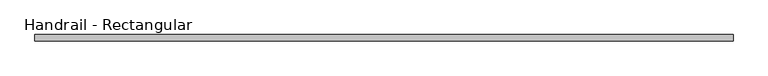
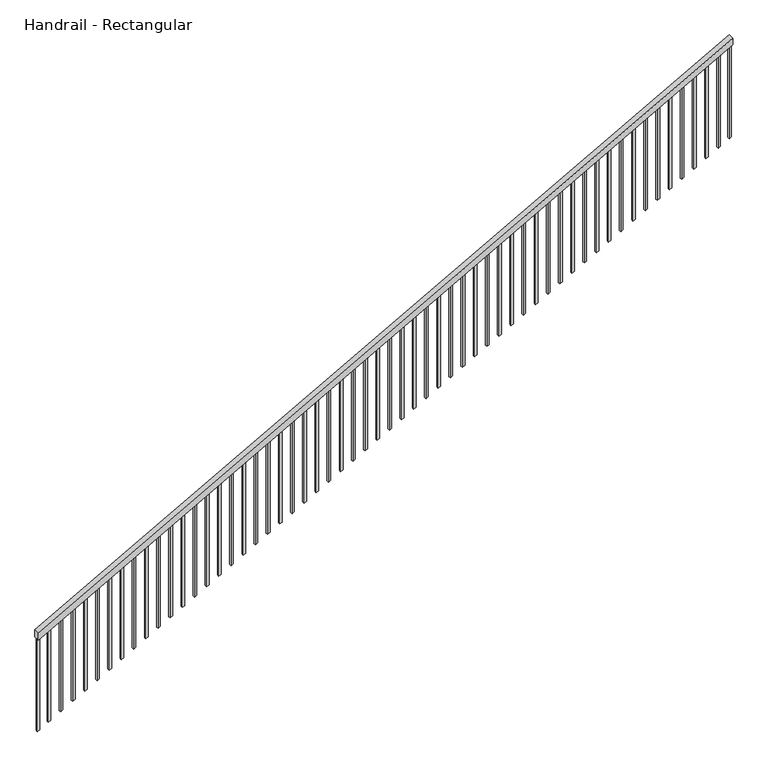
"""IFC4 building model written with IfcOpenShell, lengths in millimetres: railing geometry, Handrail - Rectangular."""

from ifc_helpers import new_model, si_unit, frame, origin, place, context, project, spatial, polyline, outline, extrude, source, transform, mapped, element, save


def handrail_rectangular_b14ff9f8(model_context):
    return source(origin(), model_context, "Body", "SweptSolid", [
        extrude(outline(polyline([(914.4, 87453.7114633), (856.2868876, 87453.7114633), (4073.620221, 93244.9114633), (4131.7333333, 93244.9114633), (914.4, 87453.7114633)])), frame((0.0, 6297.4984596, 0.0), z_axis=(0.0, 1.0, 0.0), x_axis=(0.0, 0.0, 1.0)), (0.0, 0.0, 1.0), 50.8),
        extrude(outline(polyline([(4011.8841099, 93133.7864633), (3193.8622837, 93133.7864633), (3204.445617, 93152.8364633), (4022.4674432, 93152.8364633), (4011.8841099, 93133.7864633)])), frame((0.0, 6313.3734596, 0.0), z_axis=(0.0, 1.0, 0.0), x_axis=(0.0, 0.0, 1.0)), (0.0, 0.0, 1.0), 19.05),
        extrude(outline(polyline([(3955.4396654, 93032.1864633), (3137.4178392, 93032.1864633), (3148.0011726, 93051.2364633), (3966.0229988, 93051.2364633), (3955.4396654, 93032.1864633)])), frame((0.0, 6313.3734596, 0.0), z_axis=(0.0, 1.0, 0.0), x_axis=(0.0, 0.0, 1.0)), (0.0, 0.0, 1.0), 19.05),
        extrude(outline(polyline([(3898.995221, 92930.5864633), (3080.9733948, 92930.5864633), (3091.5567281, 92949.6364633), (3909.5785543, 92949.6364633), (3898.995221, 92930.5864633)])), frame((0.0, 6313.3734596, 0.0), z_axis=(0.0, 1.0, 0.0), x_axis=(0.0, 0.0, 1.0)), (0.0, 0.0, 1.0), 19.05),
        extrude(outline(polyline([(3842.5507765, 92828.9864633), (3024.5289503, 92828.9864633), (3035.1122837, 92848.0364633), (3853.1341099, 92848.0364633), (3842.5507765, 92828.9864633)])), frame((0.0, 6313.3734596, 0.0), z_axis=(0.0, 1.0, 0.0), x_axis=(0.0, 0.0, 1.0)), (0.0, 0.0, 1.0), 19.05),
        extrude(outline(polyline([(3786.1063321, 92727.3864633), (2968.0845059, 92727.3864633), (2978.6678392, 92746.4364633), (3796.6896654, 92746.4364633), (3786.1063321, 92727.3864633)])), frame((0.0, 6313.3734596, 0.0), z_axis=(0.0, 1.0, 0.0), x_axis=(0.0, 0.0, 1.0)), (0.0, 0.0, 1.0), 19.05),
        extrude(outline(polyline([(3729.6618876, 92625.7864633), (2911.6400614, 92625.7864633), (2922.2233948, 92644.8364633), (3740.245221, 92644.8364633), (3729.6618876, 92625.7864633)])), frame((0.0, 6313.3734596, 0.0), z_axis=(0.0, 1.0, 0.0), x_axis=(0.0, 0.0, 1.0)), (0.0, 0.0, 1.0), 19.05),
        extrude(outline(polyline([(3673.2174432, 92524.1864633), (2855.195617, 92524.1864633), (2865.7789503, 92543.2364633), (3683.8007765, 92543.2364633), (3673.2174432, 92524.1864633)])), frame((0.0, 6313.3734596, 0.0), z_axis=(0.0, 1.0, 0.0), x_axis=(0.0, 0.0, 1.0)), (0.0, 0.0, 1.0), 19.05),
        extrude(outline(polyline([(3616.7729988, 92422.5864633), (2798.7511726, 92422.5864633), (2809.3345059, 92441.6364633), (3627.3563321, 92441.6364633), (3616.7729988, 92422.5864633)])), frame((0.0, 6313.3734596, 0.0), z_axis=(0.0, 1.0, 0.0), x_axis=(0.0, 0.0, 1.0)), (0.0, 0.0, 1.0), 19.05),
        extrude(outline(polyline([(3560.3285543, 92320.9864633), (2742.3067281, 92320.9864633), (2752.8900614, 92340.0364633), (3570.9118876, 92340.0364633), (3560.3285543, 92320.9864633)])), frame((0.0, 6313.3734596, 0.0), z_axis=(0.0, 1.0, 0.0), x_axis=(0.0, 0.0, 1.0)), (0.0, 0.0, 1.0), 19.05),
        extrude(outline(polyline([(3503.8841099, 92219.3864633), (2685.8622837, 92219.3864633), (2696.445617, 92238.4364633), (3514.4674432, 92238.4364633), (3503.8841099, 92219.3864633)])), frame((0.0, 6313.3734596, 0.0), z_axis=(0.0, 1.0, 0.0), x_axis=(0.0, 0.0, 1.0)), (0.0, 0.0, 1.0), 19.05),
        extrude(outline(polyline([(3447.4396654, 92117.7864633), (2629.4178392, 92117.7864633), (2640.0011726, 92136.8364633), (3458.0229988, 92136.8364633), (3447.4396654, 92117.7864633)])), frame((0.0, 6313.3734596, 0.0), z_axis=(0.0, 1.0, 0.0), x_axis=(0.0, 0.0, 1.0)), (0.0, 0.0, 1.0), 19.05),
        extrude(outline(polyline([(3390.995221, 92016.1864633), (2572.9733948, 92016.1864633), (2583.5567281, 92035.2364633), (3401.5785543, 92035.2364633), (3390.995221, 92016.1864633)])), frame((0.0, 6313.3734596, 0.0), z_axis=(0.0, 1.0, 0.0), x_axis=(0.0, 0.0, 1.0)), (0.0, 0.0, 1.0), 19.05),
        extrude(outline(polyline([(3334.5507765, 91914.5864633), (2516.5289503, 91914.5864633), (2527.1122837, 91933.6364633), (3345.1341099, 91933.6364633), (3334.5507765, 91914.5864633)])), frame((0.0, 6313.3734596, 0.0), z_axis=(0.0, 1.0, 0.0), x_axis=(0.0, 0.0, 1.0)), (0.0, 0.0, 1.0), 19.05),
        extrude(outline(polyline([(3278.1063321, 91812.9864633), (2460.0845059, 91812.9864633), (2470.6678392, 91832.0364633), (3288.6896654, 91832.0364633), (3278.1063321, 91812.9864633)])), frame((0.0, 6313.3734596, 0.0), z_axis=(0.0, 1.0, 0.0), x_axis=(0.0, 0.0, 1.0)), (0.0, 0.0, 1.0), 19.05),
        extrude(outline(polyline([(3221.6618876, 91711.3864633), (2403.6400614, 91711.3864633), (2414.2233948, 91730.4364633), (3232.245221, 91730.4364633), (3221.6618876, 91711.3864633)])), frame((0.0, 6313.3734596, 0.0), z_axis=(0.0, 1.0, 0.0), x_axis=(0.0, 0.0, 1.0)), (0.0, 0.0, 1.0), 19.05),
        extrude(outline(polyline([(3165.2174432, 91609.7864633), (2347.195617, 91609.7864633), (2357.7789503, 91628.8364633), (3175.8007765, 91628.8364633), (3165.2174432, 91609.7864633)])), frame((0.0, 6313.3734596, 0.0), z_axis=(0.0, 1.0, 0.0), x_axis=(0.0, 0.0, 1.0)), (0.0, 0.0, 1.0), 19.05),
        extrude(outline(polyline([(3108.7729988, 91508.1864633), (2290.7511726, 91508.1864633), (2301.3345059, 91527.2364633), (3119.3563321, 91527.2364633), (3108.7729988, 91508.1864633)])), frame((0.0, 6313.3734596, 0.0), z_axis=(0.0, 1.0, 0.0), x_axis=(0.0, 0.0, 1.0)), (0.0, 0.0, 1.0), 19.05),
        extrude(outline(polyline([(3052.3285543, 91406.5864633), (2234.3067281, 91406.5864633), (2244.8900614, 91425.6364633), (3062.9118876, 91425.6364633), (3052.3285543, 91406.5864633)])), frame((0.0, 6313.3734596, 0.0), z_axis=(0.0, 1.0, 0.0), x_axis=(0.0, 0.0, 1.0)), (0.0, 0.0, 1.0), 19.05),
        extrude(outline(polyline([(2995.8841099, 91304.9864633), (2177.8622837, 91304.9864633), (2188.445617, 91324.0364633), (3006.4674432, 91324.0364633), (2995.8841099, 91304.9864633)])), frame((0.0, 6313.3734596, 0.0), z_axis=(0.0, 1.0, 0.0), x_axis=(0.0, 0.0, 1.0)), (0.0, 0.0, 1.0), 19.05),
        extrude(outline(polyline([(2939.4396654, 91203.3864633), (2121.4178392, 91203.3864633), (2132.0011726, 91222.4364633), (2950.0229988, 91222.4364633), (2939.4396654, 91203.3864633)])), frame((0.0, 6313.3734596, 0.0), z_axis=(0.0, 1.0, 0.0), x_axis=(0.0, 0.0, 1.0)), (0.0, 0.0, 1.0), 19.05),
        extrude(outline(polyline([(2882.995221, 91101.7864633), (2064.9733948, 91101.7864633), (2075.5567281, 91120.8364633), (2893.5785543, 91120.8364633), (2882.995221, 91101.7864633)])), frame((0.0, 6313.3734596, 0.0), z_axis=(0.0, 1.0, 0.0), x_axis=(0.0, 0.0, 1.0)), (0.0, 0.0, 1.0), 19.05),
        extrude(outline(polyline([(2826.5507765, 91000.1864633), (2008.5289503, 91000.1864633), (2019.1122837, 91019.2364633), (2837.1341099, 91019.2364633), (2826.5507765, 91000.1864633)])), frame((0.0, 6313.3734596, 0.0), z_axis=(0.0, 1.0, 0.0), x_axis=(0.0, 0.0, 1.0)), (0.0, 0.0, 1.0), 19.05),
        extrude(outline(polyline([(2770.1063321, 90898.5864633), (1952.0845059, 90898.5864633), (1962.6678392, 90917.6364633), (2780.6896654, 90917.6364633), (2770.1063321, 90898.5864633)])), frame((0.0, 6313.3734596, 0.0), z_axis=(0.0, 1.0, 0.0), x_axis=(0.0, 0.0, 1.0)), (0.0, 0.0, 1.0), 19.05),
        extrude(outline(polyline([(2713.6618876, 90796.9864633), (1895.6400614, 90796.9864633), (1906.2233948, 90816.0364633), (2724.245221, 90816.0364633), (2713.6618876, 90796.9864633)])), frame((0.0, 6313.3734596, 0.0), z_axis=(0.0, 1.0, 0.0), x_axis=(0.0, 0.0, 1.0)), (0.0, 0.0, 1.0), 19.05),
        extrude(outline(polyline([(2657.2174432, 90695.3864633), (1839.195617, 90695.3864633), (1849.7789503, 90714.4364633), (2667.8007765, 90714.4364633), (2657.2174432, 90695.3864633)])), frame((0.0, 6313.3734596, 0.0), z_axis=(0.0, 1.0, 0.0), x_axis=(0.0, 0.0, 1.0)), (0.0, 0.0, 1.0), 19.05),
        extrude(outline(polyline([(2600.7729988, 90593.7864633), (1782.7511726, 90593.7864633), (1793.3345059, 90612.8364633), (2611.3563321, 90612.8364633), (2600.7729988, 90593.7864633)])), frame((0.0, 6313.3734596, 0.0), z_axis=(0.0, 1.0, 0.0), x_axis=(0.0, 0.0, 1.0)), (0.0, 0.0, 1.0), 19.05),
        extrude(outline(polyline([(2544.3285543, 90492.1864633), (1726.3067281, 90492.1864633), (1736.8900614, 90511.2364633), (2554.9118876, 90511.2364633), (2544.3285543, 90492.1864633)])), frame((0.0, 6313.3734596, 0.0), z_axis=(0.0, 1.0, 0.0), x_axis=(0.0, 0.0, 1.0)), (0.0, 0.0, 1.0), 19.05),
        extrude(outline(polyline([(2487.8841099, 90390.5864633), (1669.8622837, 90390.5864633), (1680.445617, 90409.6364633), (2498.4674432, 90409.6364633), (2487.8841099, 90390.5864633)])), frame((0.0, 6313.3734596, 0.0), z_axis=(0.0, 1.0, 0.0), x_axis=(0.0, 0.0, 1.0)), (0.0, 0.0, 1.0), 19.05),
        extrude(outline(polyline([(2431.4396654, 90288.9864633), (1613.4178392, 90288.9864633), (1624.0011726, 90308.0364633), (2442.0229988, 90308.0364633), (2431.4396654, 90288.9864633)])), frame((0.0, 6313.3734596, 0.0), z_axis=(0.0, 1.0, 0.0), x_axis=(0.0, 0.0, 1.0)), (0.0, 0.0, 1.0), 19.05),
        extrude(outline(polyline([(2374.995221, 90187.3864633), (1556.9733948, 90187.3864633), (1567.5567281, 90206.4364633), (2385.5785543, 90206.4364633), (2374.995221, 90187.3864633)])), frame((0.0, 6313.3734596, 0.0), z_axis=(0.0, 1.0, 0.0), x_axis=(0.0, 0.0, 1.0)), (0.0, 0.0, 1.0), 19.05),
        extrude(outline(polyline([(2318.5507765, 90085.7864633), (1500.5289503, 90085.7864633), (1511.1122837, 90104.8364633), (2329.1341099, 90104.8364633), (2318.5507765, 90085.7864633)])), frame((0.0, 6313.3734596, 0.0), z_axis=(0.0, 1.0, 0.0), x_axis=(0.0, 0.0, 1.0)), (0.0, 0.0, 1.0), 19.05),
        extrude(outline(polyline([(2262.1063321, 89984.1864633), (1444.0845059, 89984.1864633), (1454.6678392, 90003.2364633), (2272.6896654, 90003.2364633), (2262.1063321, 89984.1864633)])), frame((0.0, 6313.3734596, 0.0), z_axis=(0.0, 1.0, 0.0), x_axis=(0.0, 0.0, 1.0)), (0.0, 0.0, 1.0), 19.05),
        extrude(outline(polyline([(2205.6618876, 89882.5864633), (1387.6400614, 89882.5864633), (1398.2233948, 89901.6364633), (2216.245221, 89901.6364633), (2205.6618876, 89882.5864633)])), frame((0.0, 6313.3734596, 0.0), z_axis=(0.0, 1.0, 0.0), x_axis=(0.0, 0.0, 1.0)), (0.0, 0.0, 1.0), 19.05),
        extrude(outline(polyline([(2149.2174432, 89780.9864633), (1331.195617, 89780.9864633), (1341.7789503, 89800.0364633), (2159.8007765, 89800.0364633), (2149.2174432, 89780.9864633)])), frame((0.0, 6313.3734596, 0.0), z_axis=(0.0, 1.0, 0.0), x_axis=(0.0, 0.0, 1.0)), (0.0, 0.0, 1.0), 19.05),
        extrude(outline(polyline([(2092.7729988, 89679.3864633), (1274.7511726, 89679.3864633), (1285.3345059, 89698.4364633), (2103.3563321, 89698.4364633), (2092.7729988, 89679.3864633)])), frame((0.0, 6313.3734596, 0.0), z_axis=(0.0, 1.0, 0.0), x_axis=(0.0, 0.0, 1.0)), (0.0, 0.0, 1.0), 19.05),
        extrude(outline(polyline([(2036.3285543, 89577.7864633), (1218.3067281, 89577.7864633), (1228.8900614, 89596.8364633), (2046.9118876, 89596.8364633), (2036.3285543, 89577.7864633)])), frame((0.0, 6313.3734596, 0.0), z_axis=(0.0, 1.0, 0.0), x_axis=(0.0, 0.0, 1.0)), (0.0, 0.0, 1.0), 19.05),
        extrude(outline(polyline([(1979.8841099, 89476.1864633), (1161.8622837, 89476.1864633), (1172.445617, 89495.2364633), (1990.4674432, 89495.2364633), (1979.8841099, 89476.1864633)])), frame((0.0, 6313.3734596, 0.0), z_axis=(0.0, 1.0, 0.0), x_axis=(0.0, 0.0, 1.0)), (0.0, 0.0, 1.0), 19.05),
        extrude(outline(polyline([(1923.4396654, 89374.5864633), (1105.4178392, 89374.5864633), (1116.0011726, 89393.6364633), (1934.0229988, 89393.6364633), (1923.4396654, 89374.5864633)])), frame((0.0, 6313.3734596, 0.0), z_axis=(0.0, 1.0, 0.0), x_axis=(0.0, 0.0, 1.0)), (0.0, 0.0, 1.0), 19.05),
        extrude(outline(polyline([(1866.995221, 89272.9864633), (1048.9733948, 89272.9864633), (1059.5567281, 89292.0364633), (1877.5785543, 89292.0364633), (1866.995221, 89272.9864633)])), frame((0.0, 6313.3734596, 0.0), z_axis=(0.0, 1.0, 0.0), x_axis=(0.0, 0.0, 1.0)), (0.0, 0.0, 1.0), 19.05),
        extrude(outline(polyline([(1810.5507765, 89171.3864633), (992.5289503, 89171.3864633), (1003.1122837, 89190.4364633), (1821.1341099, 89190.4364633), (1810.5507765, 89171.3864633)])), frame((0.0, 6313.3734596, 0.0), z_axis=(0.0, 1.0, 0.0), x_axis=(0.0, 0.0, 1.0)), (0.0, 0.0, 1.0), 19.05),
        extrude(outline(polyline([(1754.1063321, 89069.7864633), (936.0845059, 89069.7864633), (946.6678392, 89088.8364633), (1764.6896654, 89088.8364633), (1754.1063321, 89069.7864633)])), frame((0.0, 6313.3734596, 0.0), z_axis=(0.0, 1.0, 0.0), x_axis=(0.0, 0.0, 1.0)), (0.0, 0.0, 1.0), 19.05),
        extrude(outline(polyline([(1697.6618876, 88968.1864633), (879.6400614, 88968.1864633), (890.2233948, 88987.2364633), (1708.245221, 88987.2364633), (1697.6618876, 88968.1864633)])), frame((0.0, 6313.3734596, 0.0), z_axis=(0.0, 1.0, 0.0), x_axis=(0.0, 0.0, 1.0)), (0.0, 0.0, 1.0), 19.05),
        extrude(outline(polyline([(1641.2174432, 88866.5864633), (823.195617, 88866.5864633), (833.7789503, 88885.6364633), (1651.8007765, 88885.6364633), (1641.2174432, 88866.5864633)])), frame((0.0, 6313.3734596, 0.0), z_axis=(0.0, 1.0, 0.0), x_axis=(0.0, 0.0, 1.0)), (0.0, 0.0, 1.0), 19.05),
        extrude(outline(polyline([(1584.7729988, 88764.9864633), (766.7511726, 88764.9864633), (777.3345059, 88784.0364633), (1595.3563321, 88784.0364633), (1584.7729988, 88764.9864633)])), frame((0.0, 6313.3734596, 0.0), z_axis=(0.0, 1.0, 0.0), x_axis=(0.0, 0.0, 1.0)), (0.0, 0.0, 1.0), 19.05),
        extrude(outline(polyline([(1528.3285543, 88663.3864633), (710.3067281, 88663.3864633), (720.8900614, 88682.4364633), (1538.9118876, 88682.4364633), (1528.3285543, 88663.3864633)])), frame((0.0, 6313.3734596, 0.0), z_axis=(0.0, 1.0, 0.0), x_axis=(0.0, 0.0, 1.0)), (0.0, 0.0, 1.0), 19.05),
        extrude(outline(polyline([(1471.8841099, 88561.7864633), (653.8622837, 88561.7864633), (664.445617, 88580.8364633), (1482.4674432, 88580.8364633), (1471.8841099, 88561.7864633)])), frame((0.0, 6313.3734596, 0.0), z_axis=(0.0, 1.0, 0.0), x_axis=(0.0, 0.0, 1.0)), (0.0, 0.0, 1.0), 19.05),
        extrude(outline(polyline([(1415.4396654, 88460.1864633), (597.4178392, 88460.1864633), (608.0011726, 88479.2364633), (1426.0229988, 88479.2364633), (1415.4396654, 88460.1864633)])), frame((0.0, 6313.3734596, 0.0), z_axis=(0.0, 1.0, 0.0), x_axis=(0.0, 0.0, 1.0)), (0.0, 0.0, 1.0), 19.05),
        extrude(outline(polyline([(1358.995221, 88358.5864633), (540.9733948, 88358.5864633), (551.5567281, 88377.6364633), (1369.5785543, 88377.6364633), (1358.995221, 88358.5864633)])), frame((0.0, 6313.3734596, 0.0), z_axis=(0.0, 1.0, 0.0), x_axis=(0.0, 0.0, 1.0)), (0.0, 0.0, 1.0), 19.05),
        extrude(outline(polyline([(1302.5507765, 88256.9864633), (484.5289503, 88256.9864633), (495.1122837, 88276.0364633), (1313.1341099, 88276.0364633), (1302.5507765, 88256.9864633)])), frame((0.0, 6313.3734596, 0.0), z_axis=(0.0, 1.0, 0.0), x_axis=(0.0, 0.0, 1.0)), (0.0, 0.0, 1.0), 19.05),
        extrude(outline(polyline([(1246.1063321, 88155.3864633), (428.0845059, 88155.3864633), (438.6678392, 88174.4364633), (1256.6896654, 88174.4364633), (1246.1063321, 88155.3864633)])), frame((0.0, 6313.3734596, 0.0), z_axis=(0.0, 1.0, 0.0), x_axis=(0.0, 0.0, 1.0)), (0.0, 0.0, 1.0), 19.05),
        extrude(outline(polyline([(1189.6618876, 88053.7864633), (371.6400614, 88053.7864633), (382.2233948, 88072.8364633), (1200.245221, 88072.8364633), (1189.6618876, 88053.7864633)])), frame((0.0, 6313.3734596, 0.0), z_axis=(0.0, 1.0, 0.0), x_axis=(0.0, 0.0, 1.0)), (0.0, 0.0, 1.0), 19.05),
        extrude(outline(polyline([(1133.2174432, 87952.1864633), (315.195617, 87952.1864633), (325.7789503, 87971.2364633), (1143.8007765, 87971.2364633), (1133.2174432, 87952.1864633)])), frame((0.0, 6313.3734596, 0.0), z_axis=(0.0, 1.0, 0.0), x_axis=(0.0, 0.0, 1.0)), (0.0, 0.0, 1.0), 19.05),
        extrude(outline(polyline([(1076.7729988, 87850.5864633), (258.7511726, 87850.5864633), (269.3345059, 87869.6364633), (1087.3563321, 87869.6364633), (1076.7729988, 87850.5864633)])), frame((0.0, 6313.3734596, 0.0), z_axis=(0.0, 1.0, 0.0), x_axis=(0.0, 0.0, 1.0)), (0.0, 0.0, 1.0), 19.05),
        extrude(outline(polyline([(1020.3285543, 87748.9864633), (202.3067281, 87748.9864633), (212.8900614, 87768.0364633), (1030.9118876, 87768.0364633), (1020.3285543, 87748.9864633)])), frame((0.0, 6313.3734596, 0.0), z_axis=(0.0, 1.0, 0.0), x_axis=(0.0, 0.0, 1.0)), (0.0, 0.0, 1.0), 19.05),
        extrude(outline(polyline([(963.8841099, 87647.3864633), (145.8622837, 87647.3864633), (156.445617, 87666.4364633), (974.4674432, 87666.4364633), (963.8841099, 87647.3864633)])), frame((0.0, 6313.3734596, 0.0), z_axis=(0.0, 1.0, 0.0), x_axis=(0.0, 0.0, 1.0)), (0.0, 0.0, 1.0), 19.05),
        extrude(outline(polyline([(907.4396654, 87545.7864633), (89.4178392, 87545.7864633), (100.0011726, 87564.8364633), (918.0229988, 87564.8364633), (907.4396654, 87545.7864633)])), frame((0.0, 6313.3734596, 0.0), z_axis=(0.0, 1.0, 0.0), x_axis=(0.0, 0.0, 1.0)), (0.0, 0.0, 1.0), 19.05),
        extrude(outline(polyline([(4063.0368876, 93225.8614633), (3245.0150614, 93225.8614633), (3255.5983948, 93244.9114633), (4073.620221, 93244.9114633), (4063.0368876, 93225.8614633)])), frame((0.0, 6313.3734596, 0.0), z_axis=(0.0, 1.0, 0.0), x_axis=(0.0, 0.0, 1.0)), (0.0, 0.0, 1.0), 19.05),
        extrude(outline(polyline([(856.2868876, 87453.7114633), (38.2650614, 87453.7114633), (48.8483948, 87472.7614633), (866.870221, 87472.7614633), (856.2868876, 87453.7114633)])), frame((0.0, 6313.3734596, 0.0), z_axis=(0.0, 1.0, 0.0), x_axis=(0.0, 0.0, 1.0)), (0.0, 0.0, 1.0), 19.05),
    ])


if __name__ == "__main__":
    model = new_model("IFC4")
    model_context = context("Model", 3, world=origin())
    ifc_project = project(units=[si_unit("LENGTHUNIT", "METRE", prefix="MILLI")], contexts=[model_context])
    site = spatial("IfcSite", under=ifc_project)
    building = spatial("IfcBuilding", under=site)
    placement = place(None, origin())
    handrail_rectangular_shape = handrail_rectangular_b14ff9f8(model_context)
    element("IfcRailing", 1, ObjectType="Handrail - Rectangular", at=placement, inside=building, context=model_context, shape_type="MappedRepresentation", body=[
        mapped(handrail_rectangular_shape, transform((0.0, 0.0, 0.0), x_axis=(1.0, 0.0, 0.0), y_axis=(0.0, 1.0, 0.0), z_axis=(0.0, 0.0, 1.0))),
    ])
    save(model, "model.ifc")
